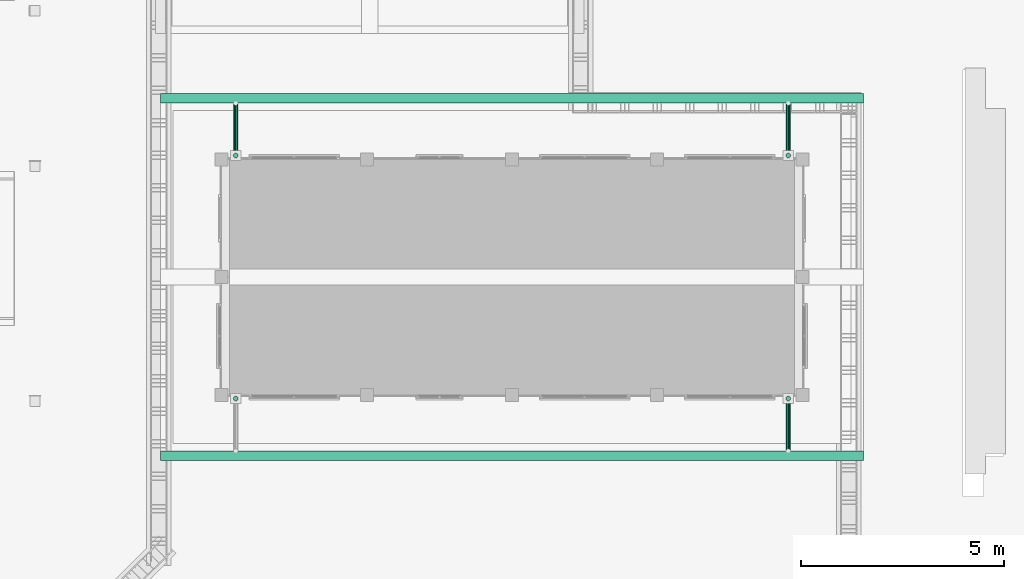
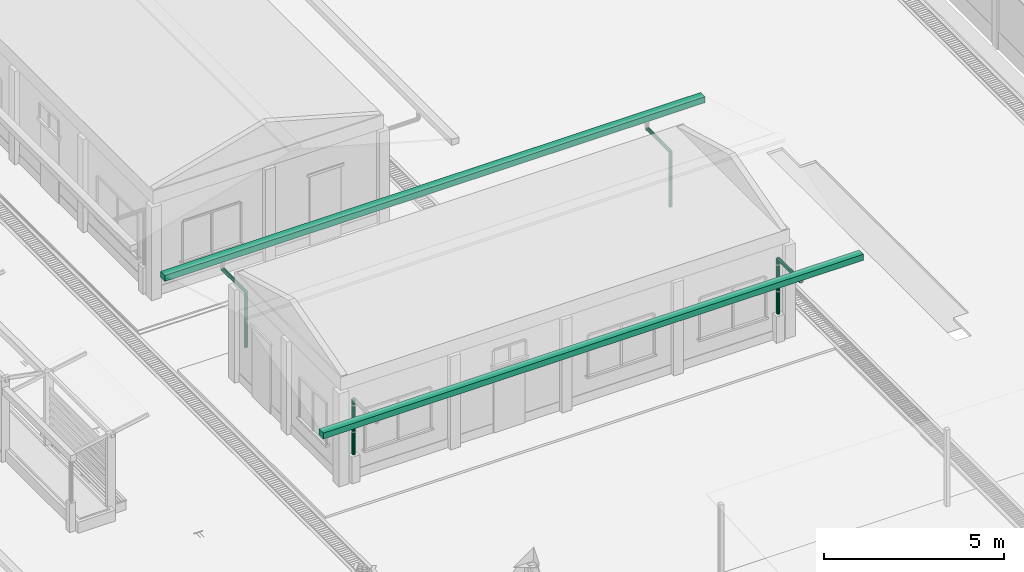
# One storey, part 92 of 151: 9 flow segments.
"""IFC2X3 building model written with IfcOpenShell, lengths in metres."""

from ifc_helpers import new_model, si_unit, origin, origin_with_axes, place, context, subcontext, project, spatial, faceted_brep, element, save


model = new_model("IFC2X3")

# Units and contexts
model_context = context("Model", 3, precision=1e-05, world=origin_with_axes())
body_context = subcontext(model_context, "Body", "Model", "MODEL_VIEW")
ifc_project = project(units=[si_unit("LENGTHUNIT", "METRE"), si_unit("AREAUNIT", "SQUARE_METRE"), si_unit("VOLUMEUNIT", "CUBIC_METRE"), si_unit("PLANEANGLEUNIT", "RADIAN")], contexts=[model_context])

# Site, building, storey
site_placement = place(None, origin_with_axes())
site = spatial("IfcSite", under=ifc_project, at=site_placement, Name="Predio Los Mangos - Morales, San Martín", CompositionType="ELEMENT")
building_placement = place(site_placement, origin())
building = spatial("IfcBuilding", under=site, at=building_placement, Name="Hogar de Refugio Temporal", CompositionType="ELEMENT")
storey_placement = place(building_placement, origin())
storey = spatial("IfcBuildingStorey", under=building, at=storey_placement, Name="NIVEL 1 (NPT +0.00)", CompositionType="ELEMENT", Elevation=0.0)

# Flow segments
flow_segment_1_placement = place(storey_placement, origin())
element("IfcFlowSegment", 1, at=flow_segment_1_placement, inside=storey, Name="E-03_canaleta", ObjectType="Canaleta", context=body_context, shape_type="Brep", body=[
    faceted_brep([(43.8, 30.88, 3.13), (43.8, 31.12, 3.13), (61.1, 31.12, 3.13), (61.1, 30.88, 3.13), (43.8, 30.88, 3.33), (61.1, 30.88, 3.33), (61.1, 31.12, 3.33), (43.8, 31.12, 3.33)], [[[0, 1, 2, 3]], [[4, 5, 6, 7]], [[0, 3, 5, 4]], [[3, 2, 6, 5]], [[2, 1, 7, 6]], [[1, 0, 4, 7]]]),
])
flow_segment_2_placement = place(storey_placement, origin())
element("IfcFlowSegment", 2, at=flow_segment_2_placement, inside=storey, Name="E-03_canaleta", ObjectType="Canaleta", context=body_context, shape_type="Brep", body=[
    faceted_brep([(43.8, 39.68, 3.13), (43.8, 39.92, 3.13), (61.1, 39.92, 3.13), (61.1, 39.68, 3.13), (43.8, 39.68, 3.33), (61.1, 39.68, 3.33), (61.1, 39.92, 3.33), (43.8, 39.92, 3.33)], [[[0, 1, 2, 3]], [[4, 5, 6, 7]], [[0, 3, 5, 4]], [[3, 2, 6, 5]], [[2, 1, 7, 6]], [[1, 0, 4, 7]]]),
])
flow_segment_3_placement = place(storey_placement, origin())
element("IfcFlowSegment", 3, at=flow_segment_3_placement, inside=storey, Name="montante_bajada", ObjectType="Montante PVC 4\"", context=body_context, shape_type="Brep", body=[
    faceted_brep([(45.65, 32.465, 2.91), (45.65, 32.465, 1.05), (45.6225, 32.4576, 1.05), (45.6225, 32.4576, 2.91), (45.6024, 32.4375, 1.05), (45.6024, 32.4375, 2.91), (45.595, 32.41, 1.05), (45.595, 32.41, 2.91), (45.6024, 32.3825, 1.05), (45.6024, 32.3825, 2.91), (45.6225, 32.3624, 1.05), (45.6225, 32.3624, 2.91), (45.65, 32.355, 1.05), (45.65, 32.355, 2.91), (45.6775, 32.3624, 1.05), (45.6775, 32.3624, 2.91), (45.6976, 32.3825, 1.05), (45.6976, 32.3825, 2.91), (45.705, 32.41, 1.05), (45.705, 32.41, 2.91), (45.6976, 32.4375, 1.05), (45.6976, 32.4375, 2.91), (45.6775, 32.4576, 1.05), (45.6775, 32.4576, 2.91)], [[[0, 1, 2, 3]], [[3, 2, 4, 5]], [[5, 4, 6, 7]], [[7, 6, 8, 9]], [[9, 8, 10, 11]], [[11, 10, 12, 13]], [[13, 12, 14, 15]], [[15, 14, 16, 17]], [[17, 16, 18, 19]], [[19, 18, 20, 21]], [[2, 1, 22, 20, 18, 16, 14, 12, 10, 8, 6, 4]], [[21, 20, 22, 23]], [[23, 22, 1, 0]], [[0, 3, 5, 7, 9, 11, 13, 15, 17, 19, 21, 23]]]),
])
flow_segment_4_placement = place(storey_placement, origin())
element("IfcFlowSegment", 4, at=flow_segment_4_placement, inside=storey, Name="montante_desvio", ObjectType="Montante PVC 4\"", context=body_context, shape_type="Brep", body=[
    faceted_brep([(59.25, 31.12, 2.965), (59.25, 32.41, 2.965), (59.2225, 32.41, 2.9576), (59.2225, 31.12, 2.9576), (59.2024, 32.41, 2.9375), (59.2024, 31.12, 2.9375), (59.195, 32.41, 2.91), (59.195, 31.12, 2.91), (59.2024, 32.41, 2.8825), (59.2024, 31.12, 2.8825), (59.2225, 32.41, 2.8624), (59.2225, 31.12, 2.8624), (59.25, 32.41, 2.855), (59.25, 31.12, 2.855), (59.2775, 32.41, 2.8624), (59.2775, 31.12, 2.8624), (59.2976, 32.41, 2.8825), (59.2976, 31.12, 2.8825), (59.305, 32.41, 2.91), (59.305, 31.12, 2.91), (59.2976, 32.41, 2.9375), (59.2976, 31.12, 2.9375), (59.2775, 32.41, 2.9576), (59.2775, 31.12, 2.9576)], [[[0, 1, 2, 3]], [[3, 2, 4, 5]], [[5, 4, 6, 7]], [[7, 6, 8, 9]], [[9, 8, 10, 11]], [[11, 10, 12, 13]], [[13, 12, 14, 15]], [[15, 14, 16, 17]], [[17, 16, 18, 19]], [[19, 18, 20, 21]], [[2, 1, 22, 20, 18, 16, 14, 12, 10, 8, 6, 4]], [[21, 20, 22, 23]], [[23, 22, 1, 0]], [[0, 3, 5, 7, 9, 11, 13, 15, 17, 19, 21, 23]]]),
])
flow_segment_5_placement = place(storey_placement, origin())
element("IfcFlowSegment", 5, at=flow_segment_5_placement, inside=storey, Name="montante_bajada", ObjectType="Montante PVC 4\"", context=body_context, shape_type="Brep", body=[
    faceted_brep([(59.25, 32.465, 2.91), (59.25, 32.465, 1.05), (59.2225, 32.4576, 1.05), (59.2225, 32.4576, 2.91), (59.2024, 32.4375, 1.05), (59.2024, 32.4375, 2.91), (59.195, 32.41, 1.05), (59.195, 32.41, 2.91), (59.2024, 32.3825, 1.05), (59.2024, 32.3825, 2.91), (59.2225, 32.3624, 1.05), (59.2225, 32.3624, 2.91), (59.25, 32.355, 1.05), (59.25, 32.355, 2.91), (59.2775, 32.3624, 1.05), (59.2775, 32.3624, 2.91), (59.2976, 32.3825, 1.05), (59.2976, 32.3825, 2.91), (59.305, 32.41, 1.05), (59.305, 32.41, 2.91), (59.2976, 32.4375, 1.05), (59.2976, 32.4375, 2.91), (59.2775, 32.4576, 1.05), (59.2775, 32.4576, 2.91)], [[[0, 1, 2, 3]], [[3, 2, 4, 5]], [[5, 4, 6, 7]], [[7, 6, 8, 9]], [[9, 8, 10, 11]], [[11, 10, 12, 13]], [[13, 12, 14, 15]], [[15, 14, 16, 17]], [[17, 16, 18, 19]], [[19, 18, 20, 21]], [[2, 1, 22, 20, 18, 16, 14, 12, 10, 8, 6, 4]], [[21, 20, 22, 23]], [[23, 22, 1, 0]], [[0, 3, 5, 7, 9, 11, 13, 15, 17, 19, 21, 23]]]),
])
flow_segment_6_placement = place(storey_placement, origin())
element("IfcFlowSegment", 6, at=flow_segment_6_placement, inside=storey, Name="montante_desvio", ObjectType="Montante PVC 4\"", context=body_context, shape_type="Brep", body=[
    faceted_brep([(45.65, 39.68, 2.965), (45.65, 38.39, 2.965), (45.6775, 38.39, 2.9576), (45.6775, 39.68, 2.9576), (45.6976, 38.39, 2.9375), (45.6976, 39.68, 2.9375), (45.705, 38.39, 2.91), (45.705, 39.68, 2.91), (45.6976, 38.39, 2.8825), (45.6976, 39.68, 2.8825), (45.6775, 38.39, 2.8624), (45.6775, 39.68, 2.8624), (45.65, 38.39, 2.855), (45.65, 39.68, 2.855), (45.6225, 38.39, 2.8624), (45.6225, 39.68, 2.8624), (45.6024, 38.39, 2.8825), (45.6024, 39.68, 2.8825), (45.595, 38.39, 2.91), (45.595, 39.68, 2.91), (45.6024, 38.39, 2.9375), (45.6024, 39.68, 2.9375), (45.6225, 38.39, 2.9576), (45.6225, 39.68, 2.9576)], [[[0, 1, 2, 3]], [[3, 2, 4, 5]], [[5, 4, 6, 7]], [[7, 6, 8, 9]], [[9, 8, 10, 11]], [[11, 10, 12, 13]], [[13, 12, 14, 15]], [[15, 14, 16, 17]], [[17, 16, 18, 19]], [[19, 18, 20, 21]], [[2, 1, 22, 20, 18, 16, 14, 12, 10, 8, 6, 4]], [[21, 20, 22, 23]], [[23, 22, 1, 0]], [[0, 3, 5, 7, 9, 11, 13, 15, 17, 19, 21, 23]]]),
])
flow_segment_7_placement = place(storey_placement, origin())
element("IfcFlowSegment", 7, at=flow_segment_7_placement, inside=storey, Name="montante_bajada", ObjectType="Montante PVC 4\"", context=body_context, shape_type="Brep", body=[
    faceted_brep([(45.65, 38.445, 2.91), (45.65, 38.445, 1.05), (45.6225, 38.4376, 1.05), (45.6225, 38.4376, 2.91), (45.6024, 38.4175, 1.05), (45.6024, 38.4175, 2.91), (45.595, 38.39, 1.05), (45.595, 38.39, 2.91), (45.6024, 38.3625, 1.05), (45.6024, 38.3625, 2.91), (45.6225, 38.3424, 1.05), (45.6225, 38.3424, 2.91), (45.65, 38.335, 1.05), (45.65, 38.335, 2.91), (45.6775, 38.3424, 1.05), (45.6775, 38.3424, 2.91), (45.6976, 38.3625, 1.05), (45.6976, 38.3625, 2.91), (45.705, 38.39, 1.05), (45.705, 38.39, 2.91), (45.6976, 38.4175, 1.05), (45.6976, 38.4175, 2.91), (45.6775, 38.4376, 1.05), (45.6775, 38.4376, 2.91)], [[[0, 1, 2, 3]], [[3, 2, 4, 5]], [[5, 4, 6, 7]], [[7, 6, 8, 9]], [[9, 8, 10, 11]], [[11, 10, 12, 13]], [[13, 12, 14, 15]], [[15, 14, 16, 17]], [[17, 16, 18, 19]], [[19, 18, 20, 21]], [[2, 1, 22, 20, 18, 16, 14, 12, 10, 8, 6, 4]], [[21, 20, 22, 23]], [[23, 22, 1, 0]], [[0, 3, 5, 7, 9, 11, 13, 15, 17, 19, 21, 23]]]),
])
flow_segment_8_placement = place(storey_placement, origin())
element("IfcFlowSegment", 8, at=flow_segment_8_placement, inside=storey, Name="montante_desvio", ObjectType="Montante PVC 4\"", context=body_context, shape_type="Brep", body=[
    faceted_brep([(59.25, 39.68, 2.965), (59.25, 38.39, 2.965), (59.2775, 38.39, 2.9576), (59.2775, 39.68, 2.9576), (59.2976, 38.39, 2.9375), (59.2976, 39.68, 2.9375), (59.305, 38.39, 2.91), (59.305, 39.68, 2.91), (59.2976, 38.39, 2.8825), (59.2976, 39.68, 2.8825), (59.2775, 38.39, 2.8624), (59.2775, 39.68, 2.8624), (59.25, 38.39, 2.855), (59.25, 39.68, 2.855), (59.2225, 38.39, 2.8624), (59.2225, 39.68, 2.8624), (59.2024, 38.39, 2.8825), (59.2024, 39.68, 2.8825), (59.195, 38.39, 2.91), (59.195, 39.68, 2.91), (59.2024, 38.39, 2.9375), (59.2024, 39.68, 2.9375), (59.2225, 38.39, 2.9576), (59.2225, 39.68, 2.9576)], [[[0, 1, 2, 3]], [[3, 2, 4, 5]], [[5, 4, 6, 7]], [[7, 6, 8, 9]], [[9, 8, 10, 11]], [[11, 10, 12, 13]], [[13, 12, 14, 15]], [[15, 14, 16, 17]], [[17, 16, 18, 19]], [[19, 18, 20, 21]], [[2, 1, 22, 20, 18, 16, 14, 12, 10, 8, 6, 4]], [[21, 20, 22, 23]], [[23, 22, 1, 0]], [[0, 3, 5, 7, 9, 11, 13, 15, 17, 19, 21, 23]]]),
])
flow_segment_9_placement = place(storey_placement, origin())
element("IfcFlowSegment", 9, at=flow_segment_9_placement, inside=storey, Name="montante_bajada", ObjectType="Montante PVC 4\"", context=body_context, shape_type="Brep", body=[
    faceted_brep([(59.25, 38.445, 2.91), (59.25, 38.445, 1.05), (59.2225, 38.4376, 1.05), (59.2225, 38.4376, 2.91), (59.2024, 38.4175, 1.05), (59.2024, 38.4175, 2.91), (59.195, 38.39, 1.05), (59.195, 38.39, 2.91), (59.2024, 38.3625, 1.05), (59.2024, 38.3625, 2.91), (59.2225, 38.3424, 1.05), (59.2225, 38.3424, 2.91), (59.25, 38.335, 1.05), (59.25, 38.335, 2.91), (59.2775, 38.3424, 1.05), (59.2775, 38.3424, 2.91), (59.2976, 38.3625, 1.05), (59.2976, 38.3625, 2.91), (59.305, 38.39, 1.05), (59.305, 38.39, 2.91), (59.2976, 38.4175, 1.05), (59.2976, 38.4175, 2.91), (59.2775, 38.4376, 1.05), (59.2775, 38.4376, 2.91)], [[[0, 1, 2, 3]], [[3, 2, 4, 5]], [[5, 4, 6, 7]], [[7, 6, 8, 9]], [[9, 8, 10, 11]], [[11, 10, 12, 13]], [[13, 12, 14, 15]], [[15, 14, 16, 17]], [[17, 16, 18, 19]], [[19, 18, 20, 21]], [[2, 1, 22, 20, 18, 16, 14, 12, 10, 8, 6, 4]], [[21, 20, 22, 23]], [[23, 22, 1, 0]], [[0, 3, 5, 7, 9, 11, 13, 15, 17, 19, 21, 23]]]),
])

save(model, "model.ifc")
